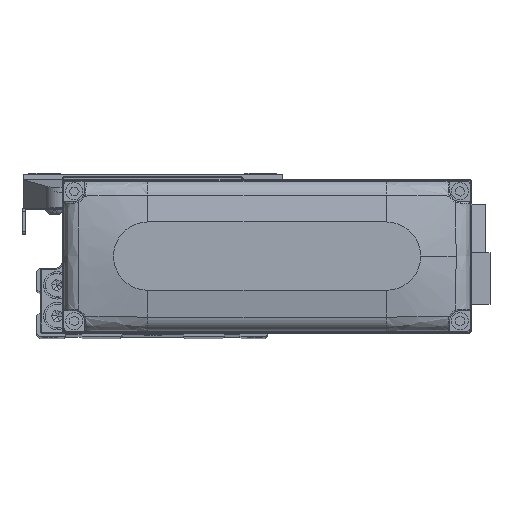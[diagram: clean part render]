
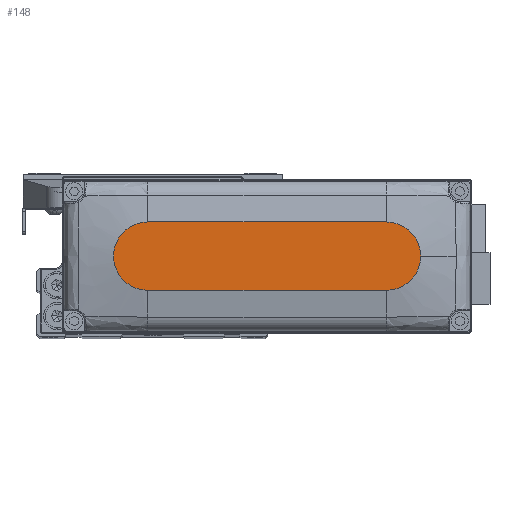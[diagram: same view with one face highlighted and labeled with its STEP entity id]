
A CAD part, top view. The second image highlights one B-rep face of the part: STEP entity #148.
In plain terms, the highlighted planar face has unit normal (0, 0, 1).
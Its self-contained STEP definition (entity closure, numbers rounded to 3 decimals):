
#148 = ADVANCED_FACE ( 'NONE', ( #1612 ), #15125, .T. ) ;
#296 = CARTESIAN_POINT ( 'NONE',  ( -35., 10., 28. ) ) ;
#1329 = CARTESIAN_POINT ( 'NONE',  ( -35., 10., 28. ) ) ;
#1612 = FACE_OUTER_BOUND ( 'NONE', #1807, .T. ) ;
#1807 = EDGE_LOOP ( 'NONE', ( #35148, #15975, #11422, #42088, #8695 ) ) ;
#1831 = VERTEX_POINT ( 'NONE', #22175 ) ;
#2669 = AXIS2_PLACEMENT_3D ( 'NONE', #28651, #42172, #11771 ) ;
#2745 = CARTESIAN_POINT ( 'NONE',  ( 35., 0., 28. ) ) ;
#2759 = VERTEX_POINT ( 'NONE', #10669 ) ;
#3500 = VECTOR ( 'NONE', #14826, 1000. ) ;
#4470 = CARTESIAN_POINT ( 'NONE',  ( 45., 0., 28. ) ) ;
#4973 = CIRCLE ( 'NONE', #29772, 10. ) ;
#5708 = EDGE_CURVE ( 'NONE', #31215, #2759, #22765, .T. ) ;
#8116 = DIRECTION ( 'NONE',  ( 0., 0., 1. ) ) ;
#8695 = ORIENTED_EDGE ( 'NONE', *, *, #24026, .T. ) ;
#10669 = CARTESIAN_POINT ( 'NONE',  ( -35., -10., 28. ) ) ;
#11058 = DIRECTION ( 'NONE',  ( 1., 0., 0. ) ) ;
#11422 = ORIENTED_EDGE ( 'NONE', *, *, #36846, .T. ) ;
#11771 = DIRECTION ( 'NONE',  ( 1., 0., 0. ) ) ;
#11826 = DIRECTION ( 'NONE',  ( 1., 0., 0. ) ) ;
#12555 = CARTESIAN_POINT ( 'NONE',  ( 35., 10., 28. ) ) ;
#14826 = DIRECTION ( 'NONE',  ( -1., 0., 0. ) ) ;
#15125 = PLANE ( 'NONE',  #2669 ) ;
#15975 = ORIENTED_EDGE ( 'NONE', *, *, #5708, .T. ) ;
#16259 = DIRECTION ( 'NONE',  ( 0., 0., 1. ) ) ;
#17590 = VERTEX_POINT ( 'NONE', #12555 ) ;
#19815 = VECTOR ( 'NONE', #11826, 1000. ) ;
#21637 = DIRECTION ( 'NONE',  ( 1., 0., 0. ) ) ;
#22175 = CARTESIAN_POINT ( 'NONE',  ( 35., -10., 28. ) ) ;
#22765 = CIRCLE ( 'NONE', #28432, 10. ) ;
#23999 = AXIS2_PLACEMENT_3D ( 'NONE', #28294, #8116, #21637 ) ;
#24026 = EDGE_CURVE ( 'NONE', #30282, #17590, #4973, .T. ) ;
#27920 = CARTESIAN_POINT ( 'NONE',  ( -35., 0., 28. ) ) ;
#28138 = EDGE_CURVE ( 'NONE', #1831, #30282, #43113, .T. ) ;
#28294 = CARTESIAN_POINT ( 'NONE',  ( 35., 0., 28. ) ) ;
#28432 = AXIS2_PLACEMENT_3D ( 'NONE', #27920, #41448, #11058 ) ;
#28651 = CARTESIAN_POINT ( 'NONE',  ( 0., 0., 28. ) ) ;
#28707 = LINE ( 'NONE', #42225, #19815 ) ;
#29772 = AXIS2_PLACEMENT_3D ( 'NONE', #2745, #16259, #29811 ) ;
#29811 = DIRECTION ( 'NONE',  ( 1., 0., 0. ) ) ;
#30282 = VERTEX_POINT ( 'NONE', #4470 ) ;
#31215 = VERTEX_POINT ( 'NONE', #296 ) ;
#31701 = LINE ( 'NONE', #1329, #3500 ) ;
#35148 = ORIENTED_EDGE ( 'NONE', *, *, #36167, .T. ) ;
#36167 = EDGE_CURVE ( 'NONE', #17590, #31215, #31701, .T. ) ;
#36846 = EDGE_CURVE ( 'NONE', #2759, #1831, #28707, .T. ) ;
#41448 = DIRECTION ( 'NONE',  ( 0., 0., 1. ) ) ;
#42088 = ORIENTED_EDGE ( 'NONE', *, *, #28138, .T. ) ;
#42172 = DIRECTION ( 'NONE',  ( 0., 0., 1. ) ) ;
#42225 = CARTESIAN_POINT ( 'NONE',  ( -35., -10., 28. ) ) ;
#43113 = CIRCLE ( 'NONE', #23999, 10. ) ;
